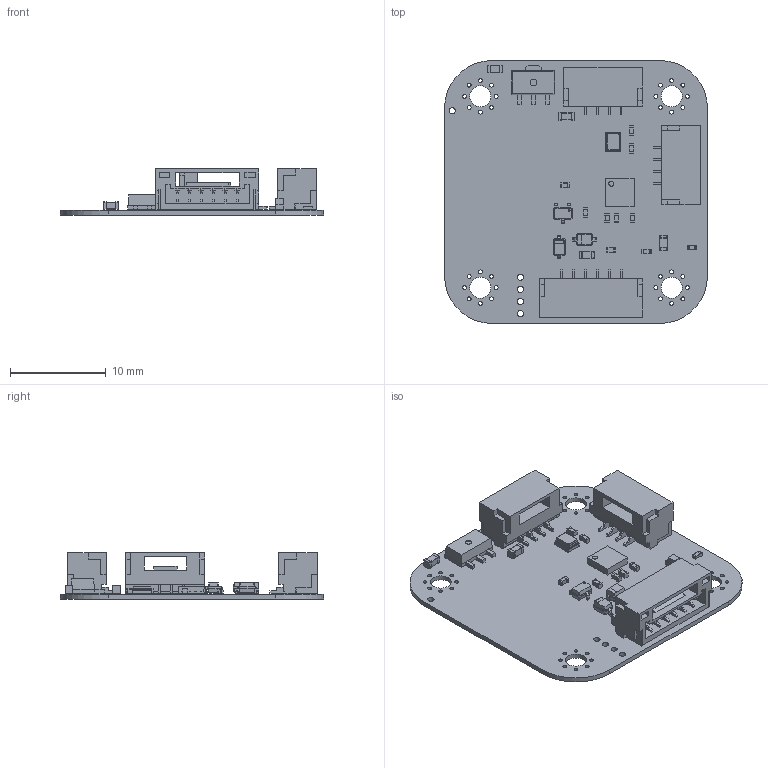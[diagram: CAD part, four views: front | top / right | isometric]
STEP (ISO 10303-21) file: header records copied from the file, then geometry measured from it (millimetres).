
FILE_DESCRIPTION(('KiCad electronic assembly'),'2;1');
FILE_NAME('dronebeacon.step','2026-01-04T13:18:20',('Pcbnew'),('Kicad'), 'Open CASCADE STEP processor 7.9','KiCad to STEP converter','Unknown' );
FILE_SCHEMA(('AUTOMOTIVE_DESIGN { 1 0 10303 214 1 1 1 1 }'));
Length unit declared in the file: millimetre
Products named in the file (14): dronebeacon 1; JST_GH_SM04B-GHS-TB_1x04-1MP_P1.25mm_Horizontal; JST_GH_SM06B-GHS-TB_1x06-1MP_P1.25mm_Horizontal; LED_0603_1608Metric; R_0402_1005Metric; Crystal_SMD_2016-4Pin_2.0x1.6mm; C_0603_1608Metric; DFN-8-1EP_3x3mm_P0.65mm_EP1.55x2.4mm; C_0402_1005Metric; D_SOD-323; SOT-89-3; dronebeacon 1.19.1; SOT-323_SC-70; dronebeacon_PCB
Assembly tree (25 placements, depth 3):
  dronebeacon 1
    JST_GH_SM04B-GHS-TB_1x04-1MP_P1.25mm_Horizontal  x2
    JST_GH_SM06B-GHS-TB_1x06-1MP_P1.25mm_Horizontal
    LED_0603_1608Metric  x2
    R_0402_1005Metric  x3
    Crystal_SMD_2016-4Pin_2.0x1.6mm
    C_0603_1608Metric  x2
    DFN-8-1EP_3x3mm_P0.65mm_EP1.55x2.4mm
    C_0402_1005Metric  x7
    D_SOD-323  x2
    SOT-89-3
      dronebeacon 1.19.1
    SOT-323_SC-70
    dronebeacon_PCB
Bounding box: 27.5 x 27.5 x 4.84 mm (x, y, z)
Volume: 676.9 mm3; surface area: 2657.3 mm2
Topology: 28 solids, 28 shells, 1614 faces, 4305 edges, 2801 vertices
Faces by surface type: plane 1239, cylinder 291, bspline 48, torus 36
Full cylindrical faces by diameter (mm): 0.4 x32, 0.5 x1, 0.65 x5, 0.7 x1, 2.2 x4
Entity records: 40514 total; most frequent: CARTESIAN_POINT 6010, ORIENTED_EDGE 5625, DIRECTION 5244, EDGE_CURVE 2813, LINE 2366, VECTOR 2366, VERTEX_POINT 1821, AXIS2_PLACEMENT_3D 1439
